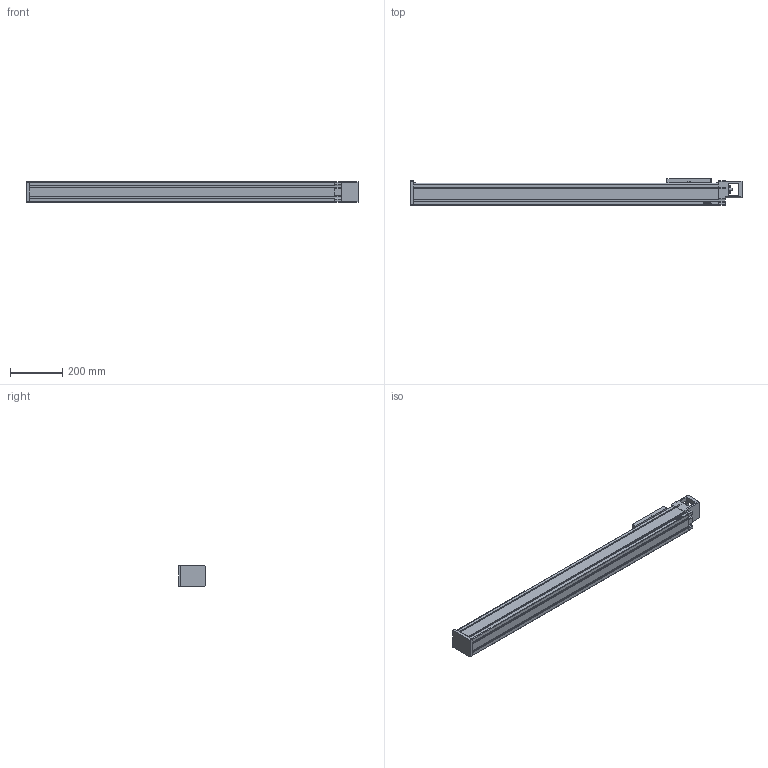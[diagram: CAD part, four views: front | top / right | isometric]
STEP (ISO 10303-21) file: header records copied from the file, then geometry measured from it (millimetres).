
FILE_DESCRIPTION(/* description */ (''),/* implementation_level */ '2;1');
FILE_NAME(/* name */ 'D:\混合母檔20191031\混和母檔\混和母檔\bin\Debug\Download\3D\KU80-20C-950AF0\KU80-20C-950AF0.stp',/* time_stamp */ '2019-11-04T17:28:52+08:00',/* author */ ('user'),/* organization */ (''),/* preprocessor_version */ 'ST-DEVELOPER v16.13',/* originating_system */ 'Autodesk Inventor 2018',/* authorisation */ '');
FILE_SCHEMA (('AUTOMOTIVE_DESIGN { 1 0 10303 214 3 1 1 }'));
Length unit declared in the file: millimetre
Products named in the file (3): KU80-20C-950AF0; KU80-F0-BP; KU80-SL
Assembly tree (2 placements, depth 2):
  KU80-20C-950AF0
    KU80-F0-BP
    KU80-SL
Bounding box: 1270 x 103 x 80 mm (x, y, z)
Volume: 8000557.4 mm3; surface area: 674291.2 mm2
Topology: 2 solids, 10 shells, 862 faces, 2315 edges, 1508 vertices
Faces by surface type: plane 509, bspline 136, cylinder 104, cone 81, torus 28, sphere 4
Full cylindrical faces by diameter (mm): 2.459 x4, 2.729 x4, 3 x4, 3.242 x4, 3.5 x4, 4.134 x16, 5 x4, 5.5 x8, 5.6 x2, 8 x1, 8.5 x4, 12 x1, 46.5 x1
Entity records: 27990 total; most frequent: CARTESIAN_POINT 7413, ORIENTED_EDGE 4362, DIRECTION 3790, EDGE_CURVE 2181, VERTEX_POINT 1469, LINE 1298, VECTOR 1298, AXIS2_PLACEMENT_3D 1246
